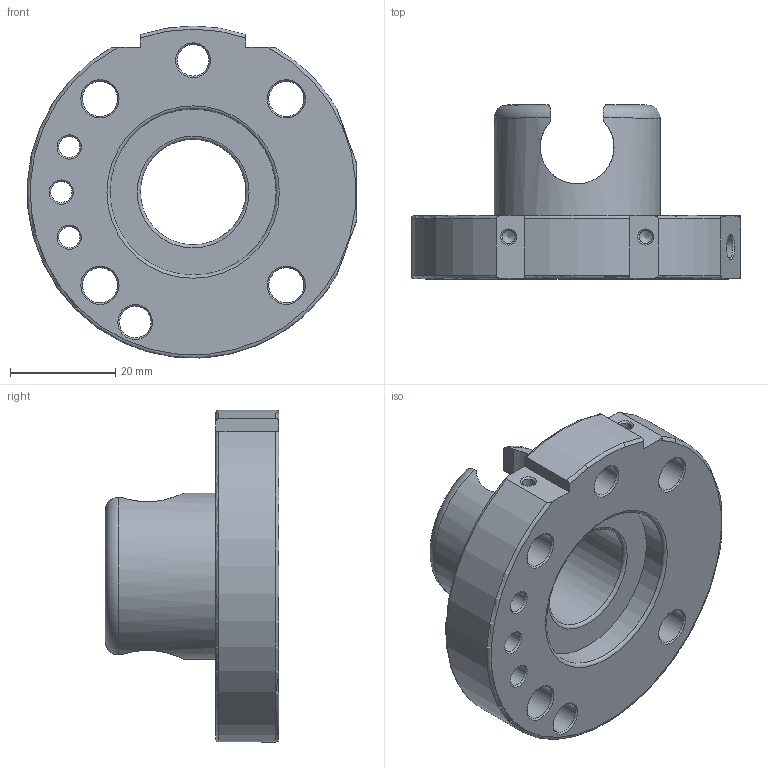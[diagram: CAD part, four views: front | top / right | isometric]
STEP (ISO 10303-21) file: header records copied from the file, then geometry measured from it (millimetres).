
FILE_DESCRIPTION(/* description */ (''),/* implementation_level */ '2;1');
FILE_NAME(/* name */ 'T:\Engineering\Homepage\Homepage 2020\4 3D Step-Daten - Homepage\4 SHW\G-SHW063-2EP.stp',/* time_stamp */ '2023-06-30T11:04:20+02:00',/* author */ ('ysplieth'),/* organization */ (''),/* preprocessor_version */ 'ST-DEVELOPER v17',/* originating_system */ 'Autodesk Inventor 2018',/* authorisation */ '');
FILE_SCHEMA (('AUTOMOTIVE_DESIGN { 1 0 10303 214 3 1 1 }'));
Length unit declared in the file: millimetre
Products named in the file (1): Bauteil12
Bounding box: 62.46 x 33 x 62.97 mm (x, y, z)
Volume: 33441.3 mm3; surface area: 14094 mm2
Topology: 1 solids, 1 shells, 100 faces, 286 edges, 193 vertices
Faces by surface type: cone 34, cylinder 32, plane 24, torus 10
Full cylindrical faces by diameter (mm): 2.459 x2, 4 x9, 4.134 x3, 6 x2, 6.647 x4, 11 x4, 20 x1, 31.5 x2
Entity records: 4200 total; most frequent: CARTESIAN_POINT 1367, DIRECTION 567, ORIENTED_EDGE 556, EDGE_CURVE 278, AXIS2_PLACEMENT_3D 234, VERTEX_POINT 193, EDGE_LOOP 139, CIRCLE 133
